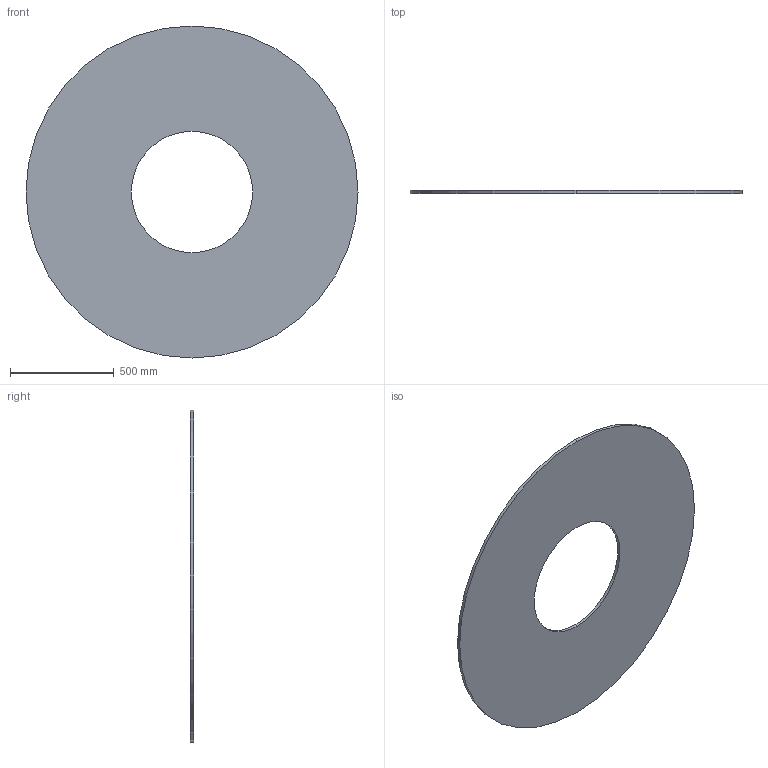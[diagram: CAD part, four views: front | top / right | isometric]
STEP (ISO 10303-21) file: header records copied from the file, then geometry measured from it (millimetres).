
FILE_DESCRIPTION (( 'STEP AP203' ), '1' );
FILE_NAME ('3D_R152_DN500_17305360.STEP', '2024-08-13T08:06:50', ( '' ), ( '' ), 'SwSTEP 2.0', 'SolidWorks 2024', '' );
FILE_SCHEMA (( 'CONFIG_CONTROL_DESIGN' ));
Length unit declared in the file: millimetre
Products named in the file (1): 3D_R152_DN500_17305360
Bounding box: 1601 x 15 x 1601 mm (x, y, z)
Volume: 26165257.1 mm3; surface area: 3591713.8 mm2
Topology: 1 solids, 1 shells, 6 faces, 12 edges, 8 vertices
Faces by surface type: cylinder 4, plane 2
Entity records: 245 total; most frequent: DIRECTION 34, CARTESIAN_POINT 27, ORIENTED_EDGE 24, AXIS2_PLACEMENT_3D 15, EDGE_CURVE 12, CIRCLE 8, EDGE_LOOP 8, PERSON_AND_ORGANIZATION 8
